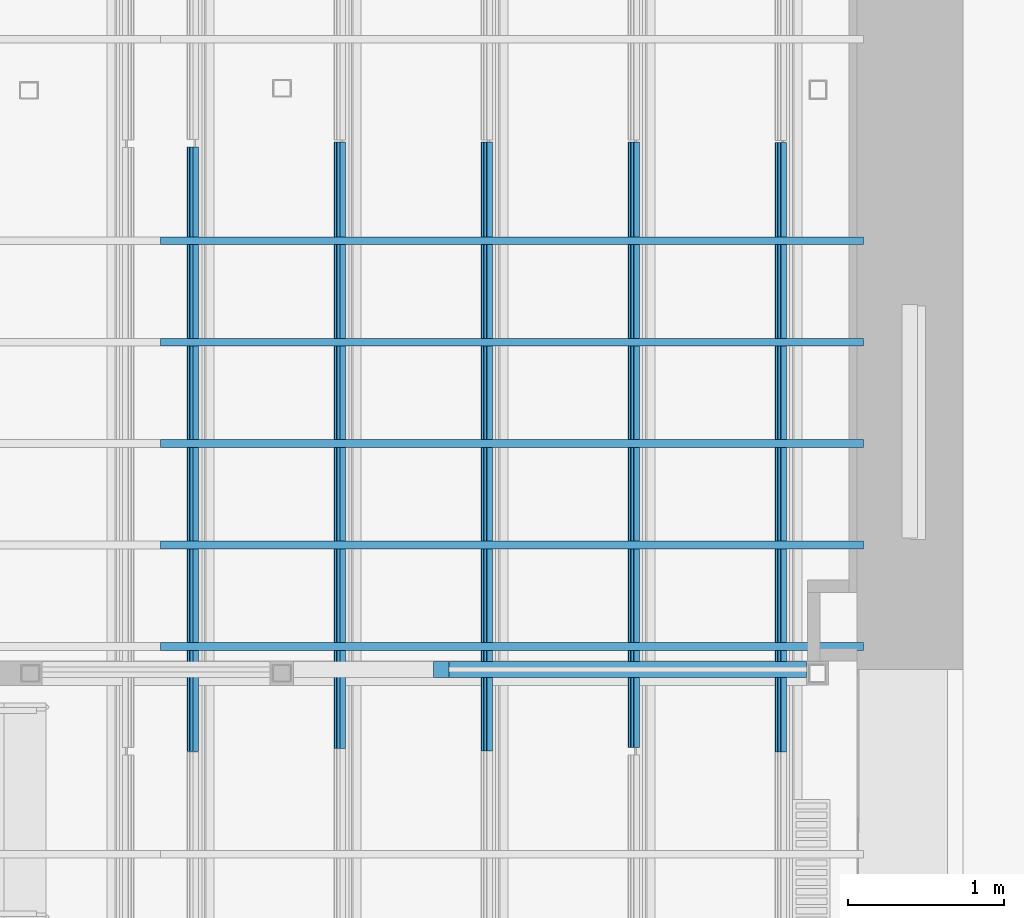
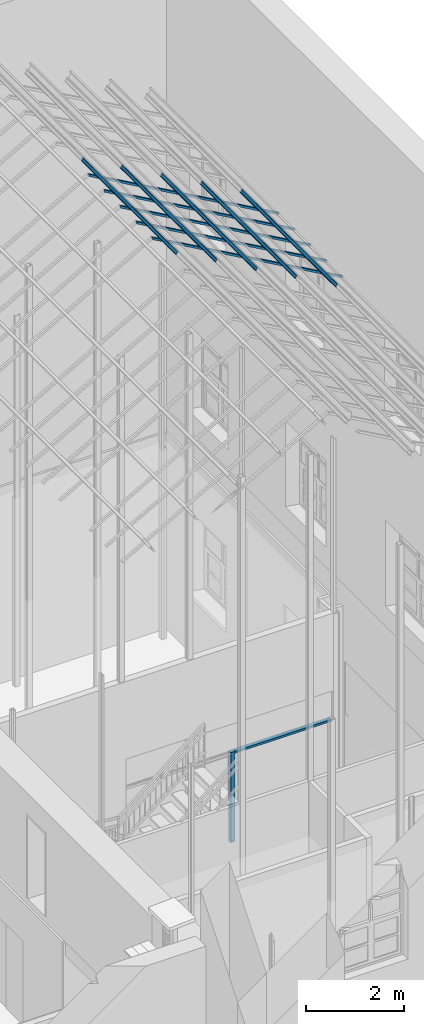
# One storey, part 26 of 75: 10 beams, 2 members, 1 element without a shape of its own.
"""IFC2X3 building model written with IfcOpenShell, lengths in metres."""

from ifc_helpers import new_model, entity, si_unit, converted_unit, derived_unit, direction, frame, frame_2d, origin, origin_2d_with_axis, place, context, subcontext, project, spatial, polyline, circle_curve, parameter, trimmed, segment, composite_curve, rectangle, outline, extrude, clip, halfspace, source, transform, mapped, material, type_object, type_shapes, element, aggregate, save


model = new_model("IFC2X3")

# Units and contexts
model_context = context("Model", 3, precision=1e-05, world=origin(), true_north=direction((6.12303176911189e-17, 1.0)))
body_context = subcontext(model_context, "Body", "Model", "MODEL_VIEW")
ifc_project = project(units=[si_unit("LENGTHUNIT", "METRE"), si_unit("AREAUNIT", "SQUARE_METRE"), si_unit("VOLUMEUNIT", "CUBIC_METRE"), converted_unit("PLANEANGLEUNIT", "DEGREE", entity("IfcRatioMeasure", 0.0174532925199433), si_unit("PLANEANGLEUNIT", "RADIAN"), dimensions=[0, 0, 0, 0, 0, 0, 0]), si_unit("MASSUNIT", "GRAM", prefix="KILO"), derived_unit("MASSDENSITYUNIT", [(si_unit("MASSUNIT", "GRAM", prefix="KILO"), 1), (si_unit("LENGTHUNIT", "METRE"), -3)]), derived_unit("MOMENTOFINERTIAUNIT", [(si_unit("LENGTHUNIT", "METRE"), 4)]), si_unit("TIMEUNIT", "SECOND"), si_unit("FREQUENCYUNIT", "HERTZ"), si_unit("THERMODYNAMICTEMPERATUREUNIT", "DEGREE_CELSIUS"), derived_unit("THERMALTRANSMITTANCEUNIT", [(si_unit("MASSUNIT", "GRAM", prefix="KILO"), 1), (si_unit("THERMODYNAMICTEMPERATUREUNIT", "KELVIN"), -1), (si_unit("TIMEUNIT", "SECOND"), -3)]), derived_unit("VOLUMETRICFLOWRATEUNIT", [(si_unit("LENGTHUNIT", "METRE"), 3), (si_unit("TIMEUNIT", "SECOND"), -1)]), si_unit("ELECTRICCURRENTUNIT", "AMPERE"), si_unit("ELECTRICVOLTAGEUNIT", "VOLT"), si_unit("POWERUNIT", "WATT"), si_unit("FORCEUNIT", "NEWTON", prefix="KILO"), si_unit("ILLUMINANCEUNIT", "LUX"), si_unit("LUMINOUSFLUXUNIT", "LUMEN"), si_unit("LUMINOUSINTENSITYUNIT", "CANDELA"), derived_unit("USERDEFINED", [(si_unit("MASSUNIT", "GRAM", prefix="KILO"), -1), (si_unit("LENGTHUNIT", "METRE"), -2), (si_unit("TIMEUNIT", "SECOND"), 3), (si_unit("LUMINOUSFLUXUNIT", "LUMEN"), 1)]), derived_unit("LINEARVELOCITYUNIT", [(si_unit("LENGTHUNIT", "METRE"), 1), (si_unit("TIMEUNIT", "SECOND"), -1)]), si_unit("PRESSUREUNIT", "PASCAL"), derived_unit("USERDEFINED", [(si_unit("LENGTHUNIT", "METRE"), -2), (si_unit("MASSUNIT", "GRAM", prefix="KILO"), 1), (si_unit("TIMEUNIT", "SECOND"), -2)]), derived_unit("LINEARFORCEUNIT", [(si_unit("MASSUNIT", "GRAM", prefix="KILO"), 1), (si_unit("LENGTHUNIT", "METRE"), 1), (si_unit("TIMEUNIT", "SECOND"), -2), (si_unit("LENGTHUNIT", "METRE"), -1)]), derived_unit("PLANARFORCEUNIT", [(si_unit("MASSUNIT", "GRAM", prefix="KILO"), 1), (si_unit("LENGTHUNIT", "METRE"), 1), (si_unit("TIMEUNIT", "SECOND"), -2), (si_unit("LENGTHUNIT", "METRE"), -2)])], contexts=[model_context])

# Site, building, storey
site_placement = place(None, origin())
site = spatial("IfcSite", under=ifc_project, at=site_placement, Name="Superficie", CompositionType="ELEMENT")
building_placement = place(site_placement, origin())
building = spatial("IfcBuilding", under=site, at=building_placement, Name="Telegestiones", CompositionType="ELEMENT")
storey_placement = place(building_placement, origin())
storey = spatial("IfcBuildingStorey", under=building, at=storey_placement, Name="Nivel 0_NPT", CompositionType="ELEMENT", Elevation=0.0)

# Beams
ifc_material_1 = material(Name="Metal - Acero - 345 MPa")
beam_type_1 = type_object("IfcBeamType", Name="IPN - Secciones en I con alas cónicas:IPN 80", PredefinedType="NOTDEFINED")
beam_1_placement = place(storey_placement, frame((10.7251251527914, 5.94775722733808, 15.6110271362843), z_axis=(0.0, 0.0, 1.0), x_axis=(0.0, 1.0, 0.0)))
element("IfcBeam", 1, at=beam_1_placement, inside=storey, type_object=beam_type_1, material=ifc_material_1, Name="IPN - Secciones en I con alas cónicas:IPN 80", ObjectType="IPN - Secciones en I con alas cónicas:IPN 80", context=body_context, shape_type="SweptSolid", body=[
    extrude(outline(composite_curve([segment(polyline([(0.0375704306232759, -0.0210000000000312), (0.0399999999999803, -0.0210000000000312)]), True, "CONTINUOUS"), segment(polyline([(0.0399999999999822, -0.0210000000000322), (0.0400000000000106, 0.0209999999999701)]), True, "CONTINUOUS"), segment(polyline([(0.0400000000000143, 0.020999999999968), (0.0375704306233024, 0.0209999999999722)]), True, "CONTINUOUS"), segment(trimmed(circle_curve(frame_2d((0.0375704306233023, 0.0186999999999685), x_axis=(0.0, 1.0)), 0.00230000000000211), [parameter(0.0)], [parameter(82.0303896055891)], True, "PARAMETER"), True, "CONTINUOUS"), segment(polyline([(0.0352926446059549, 0.0190188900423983), (0.0333732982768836, 0.00530927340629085)]), True, "CONTINUOUS"), segment(trimmed(circle_curve(frame_2d((0.0295109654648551, 0.00584999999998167), x_axis=(0.990341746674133, -0.138647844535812)), 0.00390000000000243), [parameter(277.969610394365)], [parameter(0.0)], True, "PARAMETER"), False, "CONTINUOUS"), segment(polyline([(0.0295109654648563, 0.00194999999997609), (-0.0295109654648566, 0.00195000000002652)]), True, "CONTINUOUS"), segment(trimmed(circle_curve(frame_2d((-0.0295109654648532, 0.00585000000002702), x_axis=(0.0, -1.0)), 0.0038999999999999), [parameter(277.969610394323)], [parameter(0.0)], True, "PARAMETER"), False, "CONTINUOUS"), segment(polyline([(-0.033373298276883, 0.00530927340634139), (-0.0352926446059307, 0.0190188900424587)]), True, "CONTINUOUS"), segment(trimmed(circle_curve(frame_2d((-0.0375704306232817, 0.0187000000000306), x_axis=(0.990341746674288, 0.13864784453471)), 0.00230000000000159), [parameter(0.0)], [parameter(82.0303896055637)], True, "PARAMETER"), True, "CONTINUOUS"), segment(polyline([(-0.037570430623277, 0.0210000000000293), (-0.0399999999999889, 0.0210000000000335)]), True, "CONTINUOUS"), segment(polyline([(-0.0399999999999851, 0.0210000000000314), (-0.040000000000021, -0.0209999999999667)]), True, "CONTINUOUS"), segment(polyline([(-0.0400000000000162, -0.0209999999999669), (-0.0375704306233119, -0.0209999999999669)]), True, "CONTINUOUS"), segment(trimmed(circle_curve(frame_2d((-0.0375704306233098, -0.0186999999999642), x_axis=(0.0, -1.0)), 0.00230000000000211), [parameter(0.0)], [parameter(82.0303896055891)], True, "PARAMETER"), True, "CONTINUOUS"), segment(polyline([(-0.0352926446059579, -0.0190188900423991), (-0.0333732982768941, -0.00530927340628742)]), True, "CONTINUOUS"), segment(trimmed(circle_curve(frame_2d((-0.0295109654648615, -0.00584999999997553), x_axis=(-0.990341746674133, 0.138647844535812)), 0.00390000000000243), [parameter(277.969610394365)], [parameter(0.0)], True, "PARAMETER"), False, "CONTINUOUS"), segment(polyline([(-0.0295109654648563, -0.00194999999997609), (0.0295109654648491, -0.00195000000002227)]), True, "CONTINUOUS"), segment(trimmed(circle_curve(frame_2d((0.0295109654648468, -0.00585000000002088), x_axis=(0.0, 1.0)), 0.0038999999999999), [parameter(277.969610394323)], [parameter(0.0)], True, "PARAMETER"), False, "CONTINUOUS"), segment(polyline([(0.03337329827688, -0.00530927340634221), (0.0352926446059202, -0.0190188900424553)]), True, "CONTINUOUS"), segment(trimmed(circle_curve(frame_2d((0.0375704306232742, -0.0187000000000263), x_axis=(-0.990341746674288, -0.13864784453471)), 0.00230000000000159), [parameter(0.0)], [parameter(82.0303896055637)], True, "PARAMETER"), True, "CONTINUOUS")], self_intersect=False)), frame((-0.0138250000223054, 0.0245925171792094, -0.0435339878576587), z_axis=(1.0, 0.0, 0.0), x_axis=(0.0, -0.491850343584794, 0.87067975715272)), (0.0, 0.0, 1.0), 3.88065000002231),
])
beam_2_placement = place(storey_placement, frame((14.4995219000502, 5.94480722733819, 13.4788558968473), z_axis=(0.0, 0.0, 1.0), x_axis=(0.0, 1.0, 0.0)))
element("IfcBeam", 2, at=beam_2_placement, inside=storey, type_object=beam_type_1, material=ifc_material_1, Name="IPN - Secciones en I con alas cónicas:IPN 80", ObjectType="IPN - Secciones en I con alas cónicas:IPN 80", context=body_context, shape_type="SweptSolid", body=[
    extrude(outline(composite_curve([segment(polyline([(0.0375704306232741, -0.0210000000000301), (0.0399999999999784, -0.0210000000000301)]), True, "CONTINUOUS"), segment(polyline([(0.0399999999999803, -0.0210000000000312), (0.0400000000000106, 0.0209999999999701)]), True, "CONTINUOUS"), segment(polyline([(0.0400000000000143, 0.020999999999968), (0.0375704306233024, 0.0209999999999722)]), True, "CONTINUOUS"), segment(trimmed(circle_curve(frame_2d((0.0375704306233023, 0.0186999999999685), x_axis=(0.0, 1.0)), 0.00230000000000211), [parameter(0.0)], [parameter(82.0303896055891)], True, "PARAMETER"), True, "CONTINUOUS"), segment(polyline([(0.0352926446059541, 0.0190188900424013), (0.0333732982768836, 0.00530927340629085)]), True, "CONTINUOUS"), segment(trimmed(circle_curve(frame_2d((0.0295109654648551, 0.00584999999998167), x_axis=(0.990341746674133, -0.138647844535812)), 0.00390000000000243), [parameter(277.969610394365)], [parameter(0.0)], True, "PARAMETER"), False, "CONTINUOUS"), segment(polyline([(0.0295109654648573, 0.00194999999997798), (-0.0295109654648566, 0.00195000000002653)]), True, "CONTINUOUS"), segment(trimmed(circle_curve(frame_2d((-0.0295109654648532, 0.00585000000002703), x_axis=(0.0, -1.0)), 0.0038999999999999), [parameter(277.969610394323)], [parameter(0.0)], True, "PARAMETER"), False, "CONTINUOUS"), segment(polyline([(-0.0333732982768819, 0.00530927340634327), (-0.0352926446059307, 0.0190188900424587)]), True, "CONTINUOUS"), segment(trimmed(circle_curve(frame_2d((-0.0375704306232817, 0.0187000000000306), x_axis=(0.990341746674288, 0.13864784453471)), 0.00230000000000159), [parameter(0.0)], [parameter(82.0303896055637)], True, "PARAMETER"), True, "CONTINUOUS"), segment(polyline([(-0.037570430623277, 0.0210000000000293), (-0.0399999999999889, 0.0210000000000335)]), True, "CONTINUOUS"), segment(polyline([(-0.0399999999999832, 0.0210000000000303), (-0.040000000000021, -0.0209999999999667)]), True, "CONTINUOUS"), segment(polyline([(-0.0400000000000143, -0.020999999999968), (-0.03757043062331, -0.020999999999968)]), True, "CONTINUOUS"), segment(trimmed(circle_curve(frame_2d((-0.0375704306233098, -0.0186999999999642), x_axis=(0.0, -1.0)), 0.00230000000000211), [parameter(0.0)], [parameter(82.0303896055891)], True, "PARAMETER"), True, "CONTINUOUS"), segment(polyline([(-0.0352926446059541, -0.0190188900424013), (-0.0333732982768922, -0.00530927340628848)]), True, "CONTINUOUS"), segment(trimmed(circle_curve(frame_2d((-0.0295109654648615, -0.00584999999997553), x_axis=(-0.990341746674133, 0.138647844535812)), 0.00390000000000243), [parameter(277.969610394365)], [parameter(0.0)], True, "PARAMETER"), False, "CONTINUOUS"), segment(polyline([(-0.0295109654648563, -0.0019499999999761), (0.0295109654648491, -0.00195000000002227)]), True, "CONTINUOUS"), segment(trimmed(circle_curve(frame_2d((0.0295109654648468, -0.00585000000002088), x_axis=(0.0, 1.0)), 0.0038999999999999), [parameter(277.969610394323)], [parameter(0.0)], True, "PARAMETER"), False, "CONTINUOUS"), segment(polyline([(0.033373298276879, -0.0053092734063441), (0.0352926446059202, -0.0190188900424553)]), True, "CONTINUOUS"), segment(trimmed(circle_curve(frame_2d((0.0375704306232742, -0.0187000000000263), x_axis=(-0.990341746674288, -0.13864784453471)), 0.00230000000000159), [parameter(0.0)], [parameter(82.0303896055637)], True, "PARAMETER"), True, "CONTINUOUS")], self_intersect=False)), frame((-0.0138500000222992, 0.0245925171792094, -0.0435339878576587), z_axis=(1.0, 0.0, 0.0), x_axis=(0.0, -0.491850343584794, 0.87067975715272)), (0.0, 0.0, 1.0), 3.9138500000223),
])
beam_3_placement = place(storey_placement, frame((11.6687243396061, 5.9398072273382, 15.0779843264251), z_axis=(0.0, 0.0, 1.0), x_axis=(0.0, 1.0, 0.0)))
element("IfcBeam", 3, at=beam_3_placement, inside=storey, type_object=beam_type_1, material=ifc_material_1, Name="IPN - Secciones en I con alas cónicas:IPN 80", ObjectType="IPN - Secciones en I con alas cónicas:IPN 80", context=body_context, shape_type="SweptSolid", body=[
    extrude(outline(composite_curve([segment(polyline([(0.0375704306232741, -0.0210000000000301), (0.0399999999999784, -0.0210000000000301)]), True, "CONTINUOUS"), segment(polyline([(0.0399999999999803, -0.0210000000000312), (0.0400000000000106, 0.0209999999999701)]), True, "CONTINUOUS"), segment(polyline([(0.0400000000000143, 0.020999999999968), (0.0375704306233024, 0.0209999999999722)]), True, "CONTINUOUS"), segment(trimmed(circle_curve(frame_2d((0.0375704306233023, 0.0186999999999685), x_axis=(0.0, 1.0)), 0.00230000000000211), [parameter(0.0)], [parameter(82.0303896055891)], True, "PARAMETER"), True, "CONTINUOUS"), segment(polyline([(0.0352926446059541, 0.0190188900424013), (0.0333732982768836, 0.00530927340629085)]), True, "CONTINUOUS"), segment(trimmed(circle_curve(frame_2d((0.0295109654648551, 0.00584999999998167), x_axis=(0.990341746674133, -0.138647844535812)), 0.00390000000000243), [parameter(277.969610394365)], [parameter(0.0)], True, "PARAMETER"), False, "CONTINUOUS"), segment(polyline([(0.0295109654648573, 0.00194999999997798), (-0.0295109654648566, 0.00195000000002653)]), True, "CONTINUOUS"), segment(trimmed(circle_curve(frame_2d((-0.0295109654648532, 0.00585000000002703), x_axis=(0.0, -1.0)), 0.0038999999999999), [parameter(277.969610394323)], [parameter(0.0)], True, "PARAMETER"), False, "CONTINUOUS"), segment(polyline([(-0.0333732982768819, 0.00530927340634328), (-0.0352926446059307, 0.0190188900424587)]), True, "CONTINUOUS"), segment(trimmed(circle_curve(frame_2d((-0.0375704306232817, 0.0187000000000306), x_axis=(0.990341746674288, 0.13864784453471)), 0.00230000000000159), [parameter(0.0)], [parameter(82.0303896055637)], True, "PARAMETER"), True, "CONTINUOUS"), segment(polyline([(-0.037570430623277, 0.0210000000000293), (-0.0399999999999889, 0.0210000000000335)]), True, "CONTINUOUS"), segment(polyline([(-0.0399999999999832, 0.0210000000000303), (-0.040000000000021, -0.0209999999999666)]), True, "CONTINUOUS"), segment(polyline([(-0.0400000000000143, -0.020999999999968), (-0.03757043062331, -0.020999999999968)]), True, "CONTINUOUS"), segment(trimmed(circle_curve(frame_2d((-0.0375704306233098, -0.0186999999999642), x_axis=(0.0, -1.0)), 0.00230000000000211), [parameter(0.0)], [parameter(82.0303896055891)], True, "PARAMETER"), True, "CONTINUOUS"), segment(polyline([(-0.0352926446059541, -0.0190188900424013), (-0.0333732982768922, -0.00530927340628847)]), True, "CONTINUOUS"), segment(trimmed(circle_curve(frame_2d((-0.0295109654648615, -0.00584999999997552), x_axis=(-0.990341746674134, 0.138647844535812)), 0.00390000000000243), [parameter(277.969610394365)], [parameter(0.0)], True, "PARAMETER"), False, "CONTINUOUS"), segment(polyline([(-0.0295109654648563, -0.00194999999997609), (0.0295109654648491, -0.00195000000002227)]), True, "CONTINUOUS"), segment(trimmed(circle_curve(frame_2d((0.0295109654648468, -0.00585000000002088), x_axis=(0.0, 1.0)), 0.0038999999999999), [parameter(277.969610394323)], [parameter(0.0)], True, "PARAMETER"), False, "CONTINUOUS"), segment(polyline([(0.033373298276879, -0.00530927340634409), (0.0352926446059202, -0.0190188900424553)]), True, "CONTINUOUS"), segment(trimmed(circle_curve(frame_2d((0.0375704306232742, -0.0187000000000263), x_axis=(-0.990341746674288, -0.13864784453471)), 0.00230000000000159), [parameter(0.0)], [parameter(82.0303896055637)], True, "PARAMETER"), True, "CONTINUOUS")], self_intersect=False)), frame((0.0130000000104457, 0.0245925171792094, -0.0435339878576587), z_axis=(1.0, 0.0, 0.0), x_axis=(0.0, -0.491850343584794, 0.87067975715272)), (0.0, 0.0, 1.0), 3.894),
])
beam_4_placement = place(storey_placement, frame((12.6123235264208, 5.9248072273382, 14.5449415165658), z_axis=(0.0, 0.0, 1.0), x_axis=(0.0, 1.0, 0.0)))
element("IfcBeam", 4, at=beam_4_placement, inside=storey, type_object=beam_type_1, material=ifc_material_1, Name="IPN - Secciones en I con alas cónicas:IPN 80", ObjectType="IPN - Secciones en I con alas cónicas:IPN 80", context=body_context, shape_type="SweptSolid", body=[
    extrude(outline(composite_curve([segment(polyline([(0.0375704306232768, -0.0210000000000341), (0.0399999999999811, -0.0210000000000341)]), True, "CONTINUOUS"), segment(polyline([(0.039999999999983, -0.0210000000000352), (0.0400000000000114, 0.0209999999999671)]), True, "CONTINUOUS"), segment(polyline([(0.0400000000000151, 0.020999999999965), (0.0375704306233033, 0.0209999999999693)]), True, "CONTINUOUS"), segment(trimmed(circle_curve(frame_2d((0.0375704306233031, 0.0186999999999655), x_axis=(0.0, 1.0)), 0.00230000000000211), [parameter(0.0)], [parameter(82.0303896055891)], True, "PARAMETER"), True, "CONTINUOUS"), segment(polyline([(0.0352926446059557, 0.0190188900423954), (0.0333732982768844, 0.0053092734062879)]), True, "CONTINUOUS"), segment(trimmed(circle_curve(frame_2d((0.0295109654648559, 0.00584999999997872), x_axis=(0.990341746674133, -0.138647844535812)), 0.00390000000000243), [parameter(277.969610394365)], [parameter(0.0)], True, "PARAMETER"), False, "CONTINUOUS"), segment(polyline([(0.0295109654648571, 0.00194999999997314), (-0.0295109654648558, 0.00195000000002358)]), True, "CONTINUOUS"), segment(trimmed(circle_curve(frame_2d((-0.0295109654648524, 0.00585000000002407), x_axis=(0.0, -1.0)), 0.0038999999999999), [parameter(277.969610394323)], [parameter(0.0)], True, "PARAMETER"), False, "CONTINUOUS"), segment(polyline([(-0.0333732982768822, 0.00530927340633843), (-0.0352926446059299, 0.0190188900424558)]), True, "CONTINUOUS"), segment(trimmed(circle_curve(frame_2d((-0.0375704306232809, 0.0187000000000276), x_axis=(0.990341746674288, 0.13864784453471)), 0.00230000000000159), [parameter(0.0)], [parameter(82.0303896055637)], True, "PARAMETER"), True, "CONTINUOUS"), segment(polyline([(-0.0375704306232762, 0.0210000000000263), (-0.0399999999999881, 0.0210000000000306)]), True, "CONTINUOUS"), segment(polyline([(-0.0399999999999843, 0.0210000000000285), (-0.0400000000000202, -0.0209999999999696)]), True, "CONTINUOUS"), segment(polyline([(-0.0400000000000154, -0.0209999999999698), (-0.037570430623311, -0.0209999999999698)]), True, "CONTINUOUS"), segment(trimmed(circle_curve(frame_2d((-0.037570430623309, -0.0186999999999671), x_axis=(0.0, -1.0)), 0.00230000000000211), [parameter(0.0)], [parameter(82.0303896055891)], True, "PARAMETER"), True, "CONTINUOUS"), segment(polyline([(-0.035292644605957, -0.0190188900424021), (-0.0333732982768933, -0.00530927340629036)]), True, "CONTINUOUS"), segment(trimmed(circle_curve(frame_2d((-0.0295109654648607, -0.00584999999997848), x_axis=(-0.990341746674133, 0.138647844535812)), 0.00390000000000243), [parameter(277.969610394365)], [parameter(0.0)], True, "PARAMETER"), False, "CONTINUOUS"), segment(polyline([(-0.0295109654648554, -0.00194999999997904), (0.0295109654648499, -0.00195000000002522)]), True, "CONTINUOUS"), segment(trimmed(circle_curve(frame_2d((0.0295109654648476, -0.00585000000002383), x_axis=(0.0, 1.0)), 0.0038999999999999), [parameter(277.969610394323)], [parameter(0.0)], True, "PARAMETER"), False, "CONTINUOUS"), segment(polyline([(0.0333732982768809, -0.00530927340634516), (0.035292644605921, -0.0190188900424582)]), True, "CONTINUOUS"), segment(trimmed(circle_curve(frame_2d((0.037570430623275, -0.0187000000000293), x_axis=(-0.990341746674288, -0.13864784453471)), 0.00230000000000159), [parameter(0.0)], [parameter(82.0303896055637)], True, "PARAMETER"), True, "CONTINUOUS")], self_intersect=False)), frame((0.0130000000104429, 0.0245925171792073, -0.0435339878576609), z_axis=(1.0, 0.0, 0.0), x_axis=(0.0, -0.491850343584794, 0.87067975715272)), (0.0, 0.0, 1.0), 3.909),
])
beam_5_placement = place(storey_placement, frame((13.5559227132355, 5.9448072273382, 14.0118987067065), z_axis=(0.0, 0.0, 1.0), x_axis=(0.0, 1.0, 0.0)))
element("IfcBeam", 5, at=beam_5_placement, inside=storey, type_object=beam_type_1, material=ifc_material_1, Name="IPN - Secciones en I con alas cónicas:IPN 80", ObjectType="IPN - Secciones en I con alas cónicas:IPN 80", context=body_context, shape_type="SweptSolid", body=[
    extrude(outline(composite_curve([segment(polyline([(0.0375704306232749, -0.021000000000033), (0.0399999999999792, -0.021000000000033)]), True, "CONTINUOUS"), segment(polyline([(0.0399999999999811, -0.0210000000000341), (0.0400000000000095, 0.0209999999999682)]), True, "CONTINUOUS"), segment(polyline([(0.0400000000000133, 0.0209999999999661), (0.0375704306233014, 0.0209999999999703)]), True, "CONTINUOUS"), segment(trimmed(circle_curve(frame_2d((0.0375704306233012, 0.0186999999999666), x_axis=(0.0, 1.0)), 0.00230000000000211), [parameter(0.0)], [parameter(82.0303896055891)], True, "PARAMETER"), True, "CONTINUOUS"), segment(polyline([(0.0352926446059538, 0.0190188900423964), (0.0333732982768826, 0.00530927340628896)]), True, "CONTINUOUS"), segment(trimmed(circle_curve(frame_2d((0.029510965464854, 0.00584999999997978), x_axis=(0.990341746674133, -0.138647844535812)), 0.00390000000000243), [parameter(277.969610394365)], [parameter(0.0)], True, "PARAMETER"), False, "CONTINUOUS"), segment(polyline([(0.0295109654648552, 0.00194999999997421), (-0.0295109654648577, 0.00195000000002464)]), True, "CONTINUOUS"), segment(trimmed(circle_curve(frame_2d((-0.0295109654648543, 0.00585000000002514), x_axis=(0.0, -1.0)), 0.0038999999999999), [parameter(277.969610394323)], [parameter(0.0)], True, "PARAMETER"), False, "CONTINUOUS"), segment(polyline([(-0.033373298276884, 0.0053092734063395), (-0.0352926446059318, 0.0190188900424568)]), True, "CONTINUOUS"), segment(trimmed(circle_curve(frame_2d((-0.0375704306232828, 0.0187000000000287), x_axis=(0.990341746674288, 0.13864784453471)), 0.00230000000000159), [parameter(0.0)], [parameter(82.0303896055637)], True, "PARAMETER"), True, "CONTINUOUS"), segment(polyline([(-0.0375704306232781, 0.0210000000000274), (-0.03999999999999, 0.0210000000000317)]), True, "CONTINUOUS"), segment(polyline([(-0.0399999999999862, 0.0210000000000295), (-0.0400000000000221, -0.0209999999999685)]), True, "CONTINUOUS"), segment(polyline([(-0.0400000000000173, -0.0209999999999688), (-0.0375704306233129, -0.0209999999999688)]), True, "CONTINUOUS"), segment(trimmed(circle_curve(frame_2d((-0.0375704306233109, -0.0186999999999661), x_axis=(0.0, -1.0)), 0.00230000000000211), [parameter(0.0)], [parameter(82.0303896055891)], True, "PARAMETER"), True, "CONTINUOUS"), segment(polyline([(-0.0352926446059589, -0.019018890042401), (-0.0333732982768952, -0.00530927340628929)]), True, "CONTINUOUS"), segment(trimmed(circle_curve(frame_2d((-0.0295109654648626, -0.00584999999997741), x_axis=(-0.990341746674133, 0.138647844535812)), 0.00390000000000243), [parameter(277.969610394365)], [parameter(0.0)], True, "PARAMETER"), False, "CONTINUOUS"), segment(polyline([(-0.0295109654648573, -0.00194999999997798), (0.029510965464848, -0.00195000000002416)]), True, "CONTINUOUS"), segment(trimmed(circle_curve(frame_2d((0.0295109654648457, -0.00585000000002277), x_axis=(0.0, 1.0)), 0.0038999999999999), [parameter(277.969610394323)], [parameter(0.0)], True, "PARAMETER"), False, "CONTINUOUS"), segment(polyline([(0.033373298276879, -0.0053092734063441), (0.0352926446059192, -0.0190188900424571)]), True, "CONTINUOUS"), segment(trimmed(circle_curve(frame_2d((0.0375704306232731, -0.0187000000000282), x_axis=(-0.990341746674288, -0.13864784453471)), 0.00230000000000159), [parameter(0.0)], [parameter(82.0303896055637)], True, "PARAMETER"), True, "CONTINUOUS")], self_intersect=False)), frame((0.0130000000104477, 0.0245925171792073, -0.0435339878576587), z_axis=(1.0, 0.0, 0.0), x_axis=(0.0, -0.491850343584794, 0.87067975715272)), (0.0, 0.0, 1.0), 3.889),
])

# Curtain wall, members
curtain_wall_type = type_object("IfcCurtainWallType", PredefinedType="NOTDEFINED")
curtain_wall_placement = place(storey_placement, origin())
curtain_wall = element("IfcCurtainWall", 6, at=curtain_wall_placement, inside=storey, type_object=curtain_wall_type)
ifc_material_2 = material(Name="Aluminio")
member_type_1 = type_object("IfcMemberType", Name="Montante rectangular:5x10", PredefinedType="MULLION", material=ifc_material_2)
shared_shape_1 = source(origin(), body_context, "Body", "SweptSolid", [
    extrude(rectangle(XDim=0.1, YDim=0.05, at=origin_2d_with_axis()), frame((0.0, 0.0, -2.29399977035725), z_axis=(0.0, 0.0, 1.0), x_axis=(0.0, -1.0, 0.0)), (0.0, 0.0, 1.0), 2.29399977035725),
])
type_shapes(member_type_1, [shared_shape_1])
member_1_placement = place(curtain_wall_placement, frame((14.6408126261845, 6.45996042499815, 2.225), z_axis=(1.0, 0.0, 0.0), x_axis=(0.0, 0.0, 1.0)))
member_1 = element("IfcMember", 7, at=member_1_placement, type_object=member_type_1, Name="Montante rectangular:5x10", ObjectType="Montante rectangular:5x10", context=body_context, shape_type="MappedRepresentation", body=[
    mapped(shared_shape_1, transform((0.0, 0.0, 0.0), scale=1.0)),
])
member_type_2 = type_object("IfcMemberType", Name="Montante rectangular:10x10", PredefinedType="MULLION", material=ifc_material_2)
shared_shape_2 = source(origin(), body_context, "Body", "SweptSolid", [
    extrude(rectangle(XDim=0.1, YDim=0.1, at=origin_2d_with_axis()), frame((0.05, 0.0, -2.25), z_axis=(0.0, 0.0, 1.0), x_axis=(0.0, -1.0, 0.0)), (0.0, 0.0, 1.0), 2.25),
])
type_shapes(member_type_2, [shared_shape_2])
member_2_placement = place(curtain_wall_placement, frame((12.2468128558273, 6.45996042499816, 0.0), z_axis=(0.0, 0.0, -1.0), x_axis=(1.0, 0.0, 0.0)))
member_2 = element("IfcMember", 8, at=member_2_placement, type_object=member_type_2, Name="Montante rectangular:10x10", ObjectType="Montante rectangular:10x10", context=body_context, shape_type="MappedRepresentation", body=[
    mapped(shared_shape_2, transform((0.0, 0.0, 0.0), scale=1.0)),
])
aggregate(curtain_wall, [member_1, member_2])

# Beams
ifc_material_3 = material(Name="Madera - Madera de construcción")
beam_type_2 = type_object("IfcBeamType", Name="Madera:50x50mm", PredefinedType="NOTDEFINED")
beam_6_placement = place(storey_placement, frame((14.9763682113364, 8.56127389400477, 13.2094835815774), z_axis=(0.491850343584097, 0.0, 0.870679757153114), x_axis=(-0.870679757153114, 0.0, 0.491850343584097)))
element("IfcBeam", 9, at=beam_6_placement, inside=storey, type_object=beam_type_2, material=ifc_material_3, Name="Madera:50x50mm", ObjectType="Madera:50x50mm", context=body_context, shape_type="SweptSolid", body=[
    clip(extrude(rectangle(XDim=0.0500000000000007, YDim=0.0500000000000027, at=frame_2d((-1.47624967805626e-15, 0.0), x_axis=(1.0, 0.0))), frame((-0.0851437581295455, 0.0, -0.115000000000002), z_axis=(1.0, 0.0, 0.0), x_axis=(0.0, 0.0, -1.0)), (0.0, 0.0, 1.0), 5.18302027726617), halfspace(frame((5.06963132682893, 0.0, -0.140000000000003), z_axis=(0.870679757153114, 0.0, -0.491850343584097), x_axis=(0.0, -1.0, 0.0)), False)),
])
beam_7_placement = place(storey_placement, frame((14.9763682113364, 9.21244056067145, 13.2094835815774), z_axis=(0.491850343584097, 0.0, 0.870679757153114), x_axis=(-0.870679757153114, 0.0, 0.491850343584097)))
element("IfcBeam", 10, at=beam_7_placement, inside=storey, type_object=beam_type_2, material=ifc_material_3, Name="Madera:50x50mm", ObjectType="Madera:50x50mm", context=body_context, shape_type="SweptSolid", body=[
    clip(extrude(rectangle(XDim=0.0500000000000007, YDim=0.0500000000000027, at=origin_2d_with_axis()), frame((-0.0851437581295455, 0.0, -0.115000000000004), z_axis=(1.0, 0.0, 0.0), x_axis=(0.0, 0.0, -1.0)), (0.0, 0.0, 1.0), 5.18302027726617), halfspace(frame((5.06963132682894, 0.0, -0.140000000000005), z_axis=(0.870679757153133, 0.0, -0.491850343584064), x_axis=(0.0, -1.0, 0.0)), False)),
])
beam_8_placement = place(storey_placement, frame((14.9763682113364, 7.9101072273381, 13.2094835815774), z_axis=(0.491850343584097, 0.0, 0.870679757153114), x_axis=(-0.870679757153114, 0.0, 0.491850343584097)))
element("IfcBeam", 11, at=beam_8_placement, inside=storey, type_object=beam_type_2, material=ifc_material_3, Name="Madera:50x50mm", ObjectType="Madera:50x50mm", context=body_context, shape_type="SweptSolid", body=[
    clip(extrude(rectangle(XDim=0.0500000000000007, YDim=0.0500000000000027, at=frame_2d((1.47451495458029e-15, 1.08246744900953e-15), x_axis=(1.0, 0.0))), frame((-0.0851437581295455, 0.0, -0.115), z_axis=(1.0, 0.0, 0.0), x_axis=(0.0, 0.0, -1.0)), (0.0, 0.0, 1.0), 5.18302027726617), halfspace(frame((5.06963132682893, 0.0, -0.140000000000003), z_axis=(0.870679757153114, 0.0, -0.491850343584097), x_axis=(0.0, -1.0, 0.0)), False)),
])
beam_9_placement = place(storey_placement, frame((14.9763682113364, 7.25894056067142, 13.2094835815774), z_axis=(0.491850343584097, 0.0, 0.870679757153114), x_axis=(-0.870679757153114, 0.0, 0.491850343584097)))
element("IfcBeam", 12, at=beam_9_placement, inside=storey, type_object=beam_type_2, material=ifc_material_3, Name="Madera:50x50mm", ObjectType="Madera:50x50mm", context=body_context, shape_type="SweptSolid", body=[
    clip(extrude(rectangle(XDim=0.0500000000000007, YDim=0.0500000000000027, at=frame_2d((1.47451495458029e-15, 0.0), x_axis=(1.0, 0.0))), frame((-0.0851437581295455, 0.0, -0.115), z_axis=(1.0, 0.0, 0.0), x_axis=(0.0, 0.0, -1.0)), (0.0, 0.0, 1.0), 5.18302027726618), halfspace(frame((5.06963132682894, 0.0, -0.140000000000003), z_axis=(0.870679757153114, 0.0, -0.491850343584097), x_axis=(0.0, -1.0, 0.0)), False)),
])
beam_10_placement = place(storey_placement, frame((14.9763682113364, 6.60777389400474, 13.2094835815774), z_axis=(0.491850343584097, 0.0, 0.870679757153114), x_axis=(-0.870679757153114, 0.0, 0.491850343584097)))
element("IfcBeam", 13, at=beam_10_placement, inside=storey, type_object=beam_type_2, material=ifc_material_3, Name="Madera:50x50mm", ObjectType="Madera:50x50mm", context=body_context, shape_type="SweptSolid", body=[
    clip(extrude(rectangle(XDim=0.0500000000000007, YDim=0.0500000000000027, at=frame_2d((-1.47624967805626e-15, 0.0), x_axis=(1.0, 0.0))), frame((-0.0851437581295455, 0.0, -0.115000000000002), z_axis=(1.0, 0.0, 0.0), x_axis=(0.0, 0.0, -1.0)), (0.0, 0.0, 1.0), 5.18302027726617), halfspace(frame((5.06963132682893, 0.0, -0.140000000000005), z_axis=(0.870679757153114, 0.0, -0.491850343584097), x_axis=(0.0, -1.0, 0.0)), False)),
])

save(model, "model.ifc")
